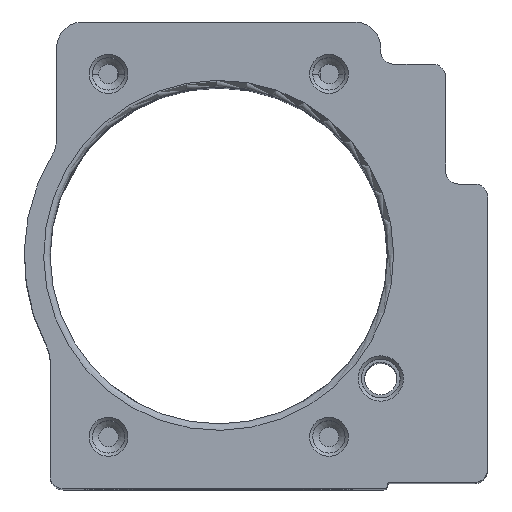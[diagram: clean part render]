
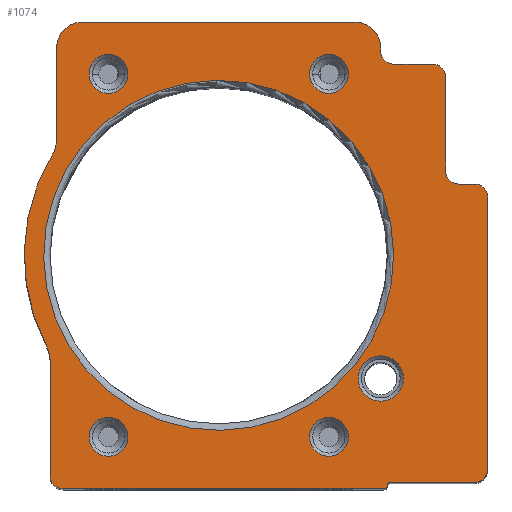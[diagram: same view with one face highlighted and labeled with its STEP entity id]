
A CAD part, top view. The second image highlights one B-rep face of the part: STEP entity #1074.
In plain terms, the highlighted planar face has unit normal (0, 0, 1).
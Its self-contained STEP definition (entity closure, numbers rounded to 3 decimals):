
#1074=ADVANCED_FACE('',(#2572,#2574,#2576,#2578,#2580,#2582,#2584),#2586,.T.);
#2572=FACE_BOUND('',#2573,.T.);
#2573=EDGE_LOOP('',(#3442,#3443,#3444,#3445,#3446,#3447,#3448,#3449,#3450,#3451,
#3452,#3453,#3454,#3455,#3456,#3457,#3458,#3459,#3460,#3461,#3462,#3463,#3464));
#2574=FACE_BOUND('',#2575,.T.);
#2575=EDGE_LOOP('',(#3465));
#2576=FACE_BOUND('',#2577,.T.);
#2577=EDGE_LOOP('',(#3466));
#2578=FACE_BOUND('',#2579,.T.);
#2579=EDGE_LOOP('',(#3467));
#2580=FACE_BOUND('',#2581,.T.);
#2581=EDGE_LOOP('',(#3468));
#2582=FACE_BOUND('',#2583,.T.);
#2583=EDGE_LOOP('',(#3469));
#2584=FACE_BOUND('',#2585,.T.);
#2585=EDGE_LOOP('',(#3470));
#2586=PLANE('',#2587);
#2587=AXIS2_PLACEMENT_3D('',#2588,#2589,#2590);
#2588=CARTESIAN_POINT('',(0.,0.,58.));
#2589=DIRECTION('',(0.,0.,1.));
#2590=DIRECTION('',(1.,0.,0.));
#3442=ORIENTED_EDGE('',*,*,#3920,.T.);
#3443=ORIENTED_EDGE('',*,*,#3921,.T.);
#3444=ORIENTED_EDGE('',*,*,#3922,.T.);
#3445=ORIENTED_EDGE('',*,*,#3923,.T.);
#3446=ORIENTED_EDGE('',*,*,#3924,.T.);
#3447=ORIENTED_EDGE('',*,*,#3925,.T.);
#3448=ORIENTED_EDGE('',*,*,#3926,.T.);
#3449=ORIENTED_EDGE('',*,*,#3927,.T.);
#3450=ORIENTED_EDGE('',*,*,#3928,.F.);
#3451=ORIENTED_EDGE('',*,*,#3929,.T.);
#3452=ORIENTED_EDGE('',*,*,#3930,.T.);
#3453=ORIENTED_EDGE('',*,*,#3931,.T.);
#3454=ORIENTED_EDGE('',*,*,#3932,.T.);
#3455=ORIENTED_EDGE('',*,*,#3933,.T.);
#3456=ORIENTED_EDGE('',*,*,#3934,.T.);
#3457=ORIENTED_EDGE('',*,*,#3935,.T.);
#3458=ORIENTED_EDGE('',*,*,#3936,.T.);
#3459=ORIENTED_EDGE('',*,*,#3937,.T.);
#3460=ORIENTED_EDGE('',*,*,#3938,.T.);
#3461=ORIENTED_EDGE('',*,*,#3939,.F.);
#3462=ORIENTED_EDGE('',*,*,#3940,.T.);
#3463=ORIENTED_EDGE('',*,*,#3941,.T.);
#3464=ORIENTED_EDGE('',*,*,#3942,.T.);
#3465=ORIENTED_EDGE('',*,*,#3759,.T.);
#3466=ORIENTED_EDGE('',*,*,#3761,.T.);
#3467=ORIENTED_EDGE('',*,*,#3763,.T.);
#3468=ORIENTED_EDGE('',*,*,#3765,.T.);
#3469=ORIENTED_EDGE('',*,*,#3661,.F.);
#3470=ORIENTED_EDGE('',*,*,#3767,.T.);
#3661=EDGE_CURVE('',#3981,#3981,#3982,.T.);
#3759=EDGE_CURVE('',#4161,#4161,#4162,.T.);
#3761=EDGE_CURVE('',#4165,#4165,#4166,.T.);
#3763=EDGE_CURVE('',#4169,#4169,#4170,.T.);
#3765=EDGE_CURVE('',#4173,#4173,#4174,.T.);
#3767=EDGE_CURVE('',#4177,#4177,#4178,.T.);
#3920=EDGE_CURVE('',#4460,#4461,#4462,.T.);
#3921=EDGE_CURVE('',#4461,#4463,#4464,.T.);
#3922=EDGE_CURVE('',#4463,#4465,#4466,.T.);
#3923=EDGE_CURVE('',#4465,#4467,#4468,.T.);
#3924=EDGE_CURVE('',#4467,#4469,#4470,.T.);
#3925=EDGE_CURVE('',#4469,#4471,#4472,.T.);
#3926=EDGE_CURVE('',#4471,#4473,#4474,.T.);
#3927=EDGE_CURVE('',#4473,#4475,#4476,.T.);
#3928=EDGE_CURVE('',#4477,#4475,#4478,.T.);
#3929=EDGE_CURVE('',#4477,#4479,#4480,.T.);
#3930=EDGE_CURVE('',#4479,#4481,#4482,.T.);
#3931=EDGE_CURVE('',#4481,#4483,#4484,.T.);
#3932=EDGE_CURVE('',#4483,#4485,#4486,.T.);
#3933=EDGE_CURVE('',#4485,#4487,#4488,.T.);
#3934=EDGE_CURVE('',#4487,#4489,#4490,.T.);
#3935=EDGE_CURVE('',#4489,#4491,#4492,.T.);
#3936=EDGE_CURVE('',#4491,#4493,#4494,.T.);
#3937=EDGE_CURVE('',#4493,#4495,#4496,.T.);
#3938=EDGE_CURVE('',#4495,#4497,#4498,.T.);
#3939=EDGE_CURVE('',#4499,#4497,#4500,.T.);
#3940=EDGE_CURVE('',#4499,#4501,#4502,.T.);
#3941=EDGE_CURVE('',#4501,#4503,#4504,.T.);
#3942=EDGE_CURVE('',#4503,#4460,#4505,.T.);
#3981=VERTEX_POINT('',#4663);
#3982=CIRCLE('',#4664,27.);
#4161=VERTEX_POINT('',#9013);
#4162=CIRCLE('',#9014,3.);
#4165=VERTEX_POINT('',#9124);
#4166=CIRCLE('',#9125,3.);
#4169=VERTEX_POINT('',#9235);
#4170=CIRCLE('',#9236,3.);
#4173=VERTEX_POINT('',#9346);
#4174=CIRCLE('',#9347,3.);
#4177=VERTEX_POINT('',#9457);
#4178=CIRCLE('',#9458,3.5);
#4460=VERTEX_POINT('',#14154);
#4461=VERTEX_POINT('',#14155);
#4462=LINE('',#14156,#14157);
#4463=VERTEX_POINT('',#14159);
#4464=CIRCLE('',#14160,2.);
#4465=VERTEX_POINT('',#14164);
#4466=LINE('',#14165,#14166);
#4467=VERTEX_POINT('',#14168);
#4468=CIRCLE('',#14169,2.);
#4469=VERTEX_POINT('',#14173);
#4470=LINE('',#14174,#14175);
#4471=VERTEX_POINT('',#14177);
#4472=CIRCLE('',#14178,2.);
#4473=VERTEX_POINT('',#14182);
#4474=LINE('',#14183,#14184);
#4475=VERTEX_POINT('',#14186);
#4476=CIRCLE('',#14187,2.);
#4477=VERTEX_POINT('',#14191);
#4478=LINE('',#14192,#14193);
#4479=VERTEX_POINT('',#14195);
#4480=CIRCLE('',#14196,4.);
#4481=VERTEX_POINT('',#14200);
#4482=LINE('',#14201,#14202);
#4483=VERTEX_POINT('',#14204);
#4484=CIRCLE('',#14205,4.);
#4485=VERTEX_POINT('',#14209);
#4486=LINE('',#14210,#14211);
#4487=VERTEX_POINT('',#14213);
#4488=CIRCLE('',#14214,5.);
#4489=VERTEX_POINT('',#14218);
#4490=CIRCLE('',#14219,30.);
#4491=VERTEX_POINT('',#14223);
#4492=CIRCLE('',#14224,5.);
#4493=VERTEX_POINT('',#14228);
#4494=LINE('',#14229,#14230);
#4495=VERTEX_POINT('',#14232);
#4496=CIRCLE('',#14233,2.);
#4497=VERTEX_POINT('',#14237);
#4498=LINE('',#14238,#14239);
#4499=VERTEX_POINT('',#14241);
#4500=CIRCLE('',#14242,0.5);
#4501=VERTEX_POINT('',#14246);
#4502=CIRCLE('',#14247,0.5);
#4503=VERTEX_POINT('',#14251);
#4504=LINE('',#14252,#14253);
#4505=CIRCLE('',#14255,2.);
#4663=CARTESIAN_POINT('',(-26.998,-0.288,58.));
#4664=AXIS2_PLACEMENT_3D('',#4665,#4666,#4667);
#4665=CARTESIAN_POINT('',(0.,0.,58.));
#4666=DIRECTION('',(0.,0.,1.));
#4667=DIRECTION('',(1.,0.,0.));
#9013=CARTESIAN_POINT('',(-14.,28.,58.));
#9014=AXIS2_PLACEMENT_3D('',#9015,#9016,#9017);
#9015=CARTESIAN_POINT('',(-17.,28.,58.));
#9016=DIRECTION('',(0.,0.,-1.));
#9017=DIRECTION('',(1.,0.,0.));
#9124=CARTESIAN_POINT('',(20.,28.,58.));
#9125=AXIS2_PLACEMENT_3D('',#9126,#9127,#9128);
#9126=CARTESIAN_POINT('',(17.,28.,58.));
#9127=DIRECTION('',(0.,0.,-1.));
#9128=DIRECTION('',(1.,0.,0.));
#9235=CARTESIAN_POINT('',(-14.,-28.,58.));
#9236=AXIS2_PLACEMENT_3D('',#9237,#9238,#9239);
#9237=CARTESIAN_POINT('',(-17.,-28.,58.));
#9238=DIRECTION('',(0.,0.,-1.));
#9239=DIRECTION('',(1.,0.,0.));
#9346=CARTESIAN_POINT('',(20.,-28.,58.));
#9347=AXIS2_PLACEMENT_3D('',#9348,#9349,#9350);
#9348=CARTESIAN_POINT('',(17.,-28.,58.));
#9349=DIRECTION('',(0.,0.,-1.));
#9350=DIRECTION('',(1.,0.,0.));
#9457=CARTESIAN_POINT('',(28.5,-19.,58.));
#9458=AXIS2_PLACEMENT_3D('',#9459,#9460,#9461);
#9459=CARTESIAN_POINT('',(25.,-19.,58.));
#9460=DIRECTION('',(0.,0.,-1.));
#9461=DIRECTION('',(1.,0.,0.));
#14154=CARTESIAN_POINT('',(41.5,-33.,58.));
#14155=CARTESIAN_POINT('',(41.5,9.,58.));
#14156=CARTESIAN_POINT('',(41.5,-33.,58.));
#14157=VECTOR('',#14158,1.);
#14158=DIRECTION('',(0.,1.,0.));
#14159=CARTESIAN_POINT('',(39.5,11.,58.));
#14160=AXIS2_PLACEMENT_3D('',#14161,#14162,#14163);
#14161=CARTESIAN_POINT('',(39.5,9.,58.));
#14162=DIRECTION('',(0.,0.,1.));
#14163=DIRECTION('',(1.,0.,0.));
#14164=CARTESIAN_POINT('',(37.,11.,58.));
#14165=CARTESIAN_POINT('',(39.5,11.,58.));
#14166=VECTOR('',#14167,1.);
#14167=DIRECTION('',(-1.,0.,0.));
#14168=CARTESIAN_POINT('',(35.,13.,58.));
#14169=AXIS2_PLACEMENT_3D('',#14170,#14171,#14172);
#14170=CARTESIAN_POINT('',(37.,13.,58.));
#14171=DIRECTION('',(0.,0.,-1.));
#14172=DIRECTION('',(0.,-1.,0.));
#14173=CARTESIAN_POINT('',(35.,27.5,58.));
#14174=CARTESIAN_POINT('',(35.,13.,58.));
#14175=VECTOR('',#14176,1.);
#14176=DIRECTION('',(0.,1.,0.));
#14177=CARTESIAN_POINT('',(33.,29.5,58.));
#14178=AXIS2_PLACEMENT_3D('',#14179,#14180,#14181);
#14179=CARTESIAN_POINT('',(33.,27.5,58.));
#14180=DIRECTION('',(0.,0.,1.));
#14181=DIRECTION('',(1.,0.,0.));
#14182=CARTESIAN_POINT('',(27.,29.5,58.));
#14183=CARTESIAN_POINT('',(33.,29.5,58.));
#14184=VECTOR('',#14185,1.);
#14185=DIRECTION('',(-1.,0.,0.));
#14186=CARTESIAN_POINT('',(25.,31.5,58.));
#14187=AXIS2_PLACEMENT_3D('',#14188,#14189,#14190);
#14188=CARTESIAN_POINT('',(27.,31.5,58.));
#14189=DIRECTION('',(0.,0.,-1.));
#14190=DIRECTION('',(0.,-1.,0.));
#14191=CARTESIAN_POINT('',(25.,32.,58.));
#14192=CARTESIAN_POINT('',(25.,32.,58.));
#14193=VECTOR('',#14194,1.);
#14194=DIRECTION('',(0.,-1.,0.));
#14195=CARTESIAN_POINT('',(21.,36.,58.));
#14196=AXIS2_PLACEMENT_3D('',#14197,#14198,#14199);
#14197=CARTESIAN_POINT('',(21.,32.,58.));
#14198=DIRECTION('',(0.,0.,1.));
#14199=DIRECTION('',(1.,0.,0.));
#14200=CARTESIAN_POINT('',(-21.,36.,58.));
#14201=CARTESIAN_POINT('',(21.,36.,58.));
#14202=VECTOR('',#14203,1.);
#14203=DIRECTION('',(-1.,0.,0.));
#14204=CARTESIAN_POINT('',(-25.,32.,58.));
#14205=AXIS2_PLACEMENT_3D('',#14206,#14207,#14208);
#14206=CARTESIAN_POINT('',(-21.,32.,58.));
#14207=DIRECTION('',(0.,0.,1.));
#14208=DIRECTION('',(0.,1.,0.));
#14209=CARTESIAN_POINT('',(-25.,18.028,58.));
#14210=CARTESIAN_POINT('',(-25.,32.,58.));
#14211=VECTOR('',#14212,1.);
#14212=DIRECTION('',(0.,-1.,0.));
#14213=CARTESIAN_POINT('',(-25.714,15.452,58.));
#14214=AXIS2_PLACEMENT_3D('',#14215,#14216,#14217);
#14215=CARTESIAN_POINT('',(-30.,18.028,58.));
#14216=DIRECTION('',(0.,0.,-1.));
#14217=DIRECTION('',(1.,0.,0.));
#14218=CARTESIAN_POINT('',(-26.571,-13.927,58.));
#14219=AXIS2_PLACEMENT_3D('',#14220,#14221,#14222);
#14220=CARTESIAN_POINT('',(0.,0.,58.));
#14221=DIRECTION('',(0.,0.,1.));
#14222=DIRECTION('',(-0.857,0.515,0.));
#14223=CARTESIAN_POINT('',(-26.,-16.248,58.));
#14224=AXIS2_PLACEMENT_3D('',#14225,#14226,#14227);
#14225=CARTESIAN_POINT('',(-31.,-16.248,58.));
#14226=DIRECTION('',(0.,0.,-1.));
#14227=DIRECTION('',(0.886,0.464,0.));
#14228=CARTESIAN_POINT('',(-26.,-34.,58.));
#14229=CARTESIAN_POINT('',(-26.,-16.248,58.));
#14230=VECTOR('',#14231,1.);
#14231=DIRECTION('',(0.,-1.,0.));
#14232=CARTESIAN_POINT('',(-24.,-36.,58.));
#14233=AXIS2_PLACEMENT_3D('',#14234,#14235,#14236);
#14234=CARTESIAN_POINT('',(-24.,-34.,58.));
#14235=DIRECTION('',(0.,0.,1.));
#14236=DIRECTION('',(-1.,0.,0.));
#14237=CARTESIAN_POINT('',(25.5,-36.,58.));
#14238=CARTESIAN_POINT('',(-24.,-36.,58.));
#14239=VECTOR('',#14240,1.);
#14240=DIRECTION('',(1.,0.,0.));
#14241=CARTESIAN_POINT('',(26.,-35.5,58.));
#14242=AXIS2_PLACEMENT_3D('',#14243,#14244,#14245);
#14243=CARTESIAN_POINT('',(25.5,-35.5,58.));
#14244=DIRECTION('',(0.,0.,-1.));
#14245=DIRECTION('',(1.,0.,0.));
#14246=CARTESIAN_POINT('',(26.5,-35.,58.));
#14247=AXIS2_PLACEMENT_3D('',#14248,#14249,#14250);
#14248=CARTESIAN_POINT('',(26.5,-35.5,58.));
#14249=DIRECTION('',(0.,0.,-1.));
#14250=DIRECTION('',(-1.,0.,0.));
#14251=CARTESIAN_POINT('',(39.5,-35.,58.));
#14252=CARTESIAN_POINT('',(26.5,-35.,58.));
#14253=VECTOR('',#14254,1.);
#14254=DIRECTION('',(1.,0.,0.));
#14255=AXIS2_PLACEMENT_3D('',#14256,#14257,#14258);
#14256=CARTESIAN_POINT('',(39.5,-33.,58.));
#14257=DIRECTION('',(0.,0.,1.));
#14258=DIRECTION('',(0.,-1.,0.));
